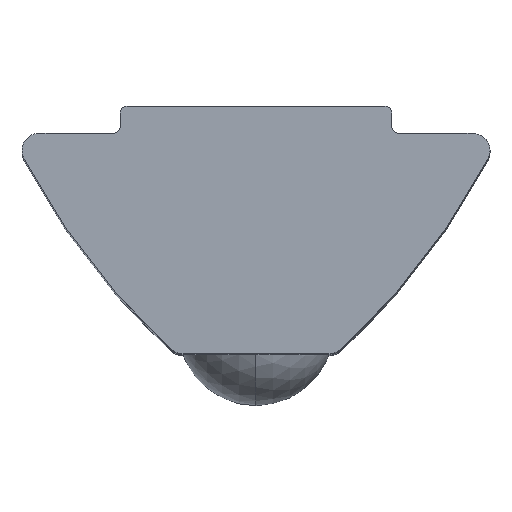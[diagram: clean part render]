
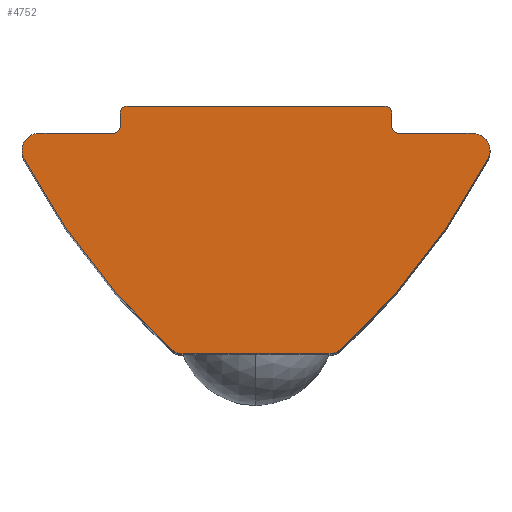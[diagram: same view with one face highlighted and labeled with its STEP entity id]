
A CAD part, top view. The second image highlights one B-rep face of the part: STEP entity #4752.
In plain terms, the highlighted planar face has unit normal (0, 0, 1).
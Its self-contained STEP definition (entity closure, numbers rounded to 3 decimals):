
#26 = AXIS2_PLACEMENT_3D ( 'NONE', #678, #217, #2881 ) ;
#60 = ORIENTED_EDGE ( 'NONE', *, *, #2688, .T. ) ;
#191 = VERTEX_POINT ( 'NONE', #746 ) ;
#217 = DIRECTION ( 'NONE',  ( 0., 0., 1. ) ) ;
#301 = DIRECTION ( 'NONE',  ( 1., 0., 0. ) ) ;
#379 = ORIENTED_EDGE ( 'NONE', *, *, #4953, .T. ) ;
#472 = FACE_OUTER_BOUND ( 'NONE', #1189, .T. ) ;
#520 = CARTESIAN_POINT ( 'NONE',  ( -4., -0.2, 0. ) ) ;
#535 = EDGE_CURVE ( 'NONE', #3814, #4878, #6131, .T. ) ;
#601 = CIRCLE ( 'NONE', #3243, 0.2 ) ;
#624 = VERTEX_POINT ( 'NONE', #765 ) ;
#678 = CARTESIAN_POINT ( 'NONE',  ( 3.8, -0.2, 0. ) ) ;
#746 = CARTESIAN_POINT ( 'NONE',  ( -4.2, -0.8, 0. ) ) ;
#753 = DIRECTION ( 'NONE',  ( 0., 1., 0. ) ) ;
#755 = ORIENTED_EDGE ( 'NONE', *, *, #4231, .T. ) ;
#765 = CARTESIAN_POINT ( 'NONE',  ( -6.4, -0.8, 0. ) ) ;
#962 = VERTEX_POINT ( 'NONE', #5815 ) ;
#982 = CARTESIAN_POINT ( 'NONE',  ( -2.485, -7.171, 0. ) ) ;
#994 = ORIENTED_EDGE ( 'NONE', *, *, #3889, .T. ) ;
#1047 = LINE ( 'NONE', #6234, #6774 ) ;
#1085 = EDGE_CURVE ( 'NONE', #4878, #4540, #3236, .T. ) ;
#1129 = PLANE ( 'NONE',  #1243 ) ;
#1150 = AXIS2_PLACEMENT_3D ( 'NONE', #2302, #1271, #2336 ) ;
#1175 = CARTESIAN_POINT ( 'NONE',  ( -6.844, -1.53, 0. ) ) ;
#1189 = EDGE_LOOP ( 'NONE', ( #4289, #60, #5644, #5469, #3060, #994, #6531, #5521, #5802, #755, #5991, #4119, #4323, #2280, #379, #3516, #1621 ) ) ;
#1228 = CARTESIAN_POINT ( 'NONE',  ( 3.8, 0., 0. ) ) ;
#1243 = AXIS2_PLACEMENT_3D ( 'NONE', #5828, #5861, #2175 ) ;
#1244 = CIRCLE ( 'NONE', #26, 0.2 ) ;
#1245 = DIRECTION ( 'NONE',  ( -1., 0., 0. ) ) ;
#1271 = DIRECTION ( 'NONE',  ( 0., 0., 1. ) ) ;
#1362 = AXIS2_PLACEMENT_3D ( 'NONE', #5969, #5040, #301 ) ;
#1381 = DIRECTION ( 'NONE',  ( 1., 0., 0. ) ) ;
#1485 = AXIS2_PLACEMENT_3D ( 'NONE', #6783, #3078, #1562 ) ;
#1520 = CARTESIAN_POINT ( 'NONE',  ( -2.15, -7.3, 0. ) ) ;
#1562 = DIRECTION ( 'NONE',  ( 1., 0., 0. ) ) ;
#1621 = ORIENTED_EDGE ( 'NONE', *, *, #3397, .T. ) ;
#1759 = CARTESIAN_POINT ( 'NONE',  ( 6.9, -1.3, 0. ) ) ;
#1767 = VERTEX_POINT ( 'NONE', #3641 ) ;
#1773 = VERTEX_POINT ( 'NONE', #4366 ) ;
#1912 = CARTESIAN_POINT ( 'NONE',  ( -3.8, -0.2, 0. ) ) ;
#1942 = AXIS2_PLACEMENT_3D ( 'NONE', #4235, #5362, #3276 ) ;
#2175 = DIRECTION ( 'NONE',  ( 1., 0., 0. ) ) ;
#2242 = VERTEX_POINT ( 'NONE', #1759 ) ;
#2271 = CARTESIAN_POINT ( 'NONE',  ( 4., -0.6, 0. ) ) ;
#2280 = ORIENTED_EDGE ( 'NONE', *, *, #2764, .T. ) ;
#2302 = CARTESIAN_POINT ( 'NONE',  ( 2.15, -6.8, 0. ) ) ;
#2336 = DIRECTION ( 'NONE',  ( 1., 0., 0. ) ) ;
#2480 = DIRECTION ( 'NONE',  ( 0., 0., 1. ) ) ;
#2544 = DIRECTION ( 'NONE',  ( 0., -1., 0. ) ) ;
#2688 = EDGE_CURVE ( 'NONE', #5972, #1767, #2844, .T. ) ;
#2695 = CIRCLE ( 'NONE', #3570, 20. ) ;
#2707 = DIRECTION ( 'NONE',  ( 0., 0., 1. ) ) ;
#2730 = DIRECTION ( 'NONE',  ( 1., 0., 0. ) ) ;
#2739 = DIRECTION ( 'NONE',  ( -1., 0., 0. ) ) ;
#2764 = EDGE_CURVE ( 'NONE', #2242, #1773, #3460, .T. ) ;
#2792 = VECTOR ( 'NONE', #753, 1000. ) ;
#2844 = LINE ( 'NONE', #6516, #4675 ) ;
#2881 = DIRECTION ( 'NONE',  ( 1., 0., 0. ) ) ;
#2917 = VECTOR ( 'NONE', #2544, 1000. ) ;
#2996 = DIRECTION ( 'NONE',  ( 0., 0., 1. ) ) ;
#3018 = CARTESIAN_POINT ( 'NONE',  ( 6.844, -1.53, 0. ) ) ;
#3037 = DIRECTION ( 'NONE',  ( 1., 0., 0. ) ) ;
#3038 = VERTEX_POINT ( 'NONE', #520 ) ;
#3060 = ORIENTED_EDGE ( 'NONE', *, *, #5229, .T. ) ;
#3078 = DIRECTION ( 'NONE',  ( 0., 0., 1. ) ) ;
#3104 = DIRECTION ( 'NONE',  ( 1., 0., 0. ) ) ;
#3119 = AXIS2_PLACEMENT_3D ( 'NONE', #5628, #5724, #3037 ) ;
#3236 = CIRCLE ( 'NONE', #4006, 0.5 ) ;
#3243 = AXIS2_PLACEMENT_3D ( 'NONE', #1912, #2480, #4118 ) ;
#3267 = EDGE_CURVE ( 'NONE', #5321, #962, #6009, .T. ) ;
#3276 = DIRECTION ( 'NONE',  ( 1., 0., 0. ) ) ;
#3277 = CARTESIAN_POINT ( 'NONE',  ( -4., -0.6, 0. ) ) ;
#3311 = DIRECTION ( 'NONE',  ( 0., 0., 1. ) ) ;
#3340 = LINE ( 'NONE', #3852, #4509 ) ;
#3397 = EDGE_CURVE ( 'NONE', #4532, #3466, #5039, .T. ) ;
#3460 = CIRCLE ( 'NONE', #1485, 0.5 ) ;
#3466 = VERTEX_POINT ( 'NONE', #3574 ) ;
#3477 = EDGE_CURVE ( 'NONE', #1767, #3038, #601, .T. ) ;
#3485 = EDGE_CURVE ( 'NONE', #962, #4384, #2695, .T. ) ;
#3516 = ORIENTED_EDGE ( 'NONE', *, *, #5354, .T. ) ;
#3560 = EDGE_CURVE ( 'NONE', #3038, #3844, #4084, .T. ) ;
#3570 = AXIS2_PLACEMENT_3D ( 'NONE', #4606, #2996, #1381 ) ;
#3574 = CARTESIAN_POINT ( 'NONE',  ( 4., -0.2, 0. ) ) ;
#3641 = CARTESIAN_POINT ( 'NONE',  ( -3.8, 0., 0. ) ) ;
#3647 = DIRECTION ( 'NONE',  ( 0., 0., 1. ) ) ;
#3814 = VERTEX_POINT ( 'NONE', #1175 ) ;
#3821 = CARTESIAN_POINT ( 'NONE',  ( -2.15, -6.8, 0. ) ) ;
#3844 = VERTEX_POINT ( 'NONE', #3277 ) ;
#3852 = CARTESIAN_POINT ( 'NONE',  ( -4.2, -0.8, 0. ) ) ;
#3889 = EDGE_CURVE ( 'NONE', #191, #624, #3340, .T. ) ;
#4006 = AXIS2_PLACEMENT_3D ( 'NONE', #3821, #3311, #2730 ) ;
#4025 = CARTESIAN_POINT ( 'NONE',  ( -2.15, -7.3, 0. ) ) ;
#4084 = LINE ( 'NONE', #6218, #2917 ) ;
#4118 = DIRECTION ( 'NONE',  ( 1., 0., 0. ) ) ;
#4119 = ORIENTED_EDGE ( 'NONE', *, *, #3485, .T. ) ;
#4184 = CARTESIAN_POINT ( 'NONE',  ( 4.2, -0.8, 0. ) ) ;
#4206 = CIRCLE ( 'NONE', #3119, 0.2 ) ;
#4231 = EDGE_CURVE ( 'NONE', #4540, #5321, #6778, .T. ) ;
#4235 = CARTESIAN_POINT ( 'NONE',  ( 10.908, 7.682, 0. ) ) ;
#4289 = ORIENTED_EDGE ( 'NONE', *, *, #5978, .T. ) ;
#4323 = ORIENTED_EDGE ( 'NONE', *, *, #6458, .T. ) ;
#4366 = CARTESIAN_POINT ( 'NONE',  ( 6.4, -0.8, 0. ) ) ;
#4384 = VERTEX_POINT ( 'NONE', #3018 ) ;
#4509 = VECTOR ( 'NONE', #1245, 1000. ) ;
#4532 = VERTEX_POINT ( 'NONE', #6565 ) ;
#4540 = VERTEX_POINT ( 'NONE', #4025 ) ;
#4606 = CARTESIAN_POINT ( 'NONE',  ( -10.908, 7.682, 0. ) ) ;
#4675 = VECTOR ( 'NONE', #2739, 1000. ) ;
#4752 = ADVANCED_FACE ( 'NONE', ( #472 ), #1129, .T. ) ;
#4878 = VERTEX_POINT ( 'NONE', #982 ) ;
#4953 = EDGE_CURVE ( 'NONE', #1773, #5492, #1047, .T. ) ;
#5039 = LINE ( 'NONE', #2271, #2792 ) ;
#5040 = DIRECTION ( 'NONE',  ( 0., 0., -1. ) ) ;
#5225 = AXIS2_PLACEMENT_3D ( 'NONE', #5336, #2707, #6383 ) ;
#5229 = EDGE_CURVE ( 'NONE', #3844, #191, #6115, .T. ) ;
#5321 = VERTEX_POINT ( 'NONE', #6219 ) ;
#5336 = CARTESIAN_POINT ( 'NONE',  ( 6.4, -1.3, 0. ) ) ;
#5354 = EDGE_CURVE ( 'NONE', #5492, #4532, #4206, .T. ) ;
#5362 = DIRECTION ( 'NONE',  ( 0., 0., 1. ) ) ;
#5379 = CARTESIAN_POINT ( 'NONE',  ( -6.4, -1.3, 0. ) ) ;
#5469 = ORIENTED_EDGE ( 'NONE', *, *, #3560, .T. ) ;
#5492 = VERTEX_POINT ( 'NONE', #4184 ) ;
#5521 = ORIENTED_EDGE ( 'NONE', *, *, #535, .T. ) ;
#5555 = CIRCLE ( 'NONE', #5225, 0.5 ) ;
#5628 = CARTESIAN_POINT ( 'NONE',  ( 4.2, -0.6, 0. ) ) ;
#5644 = ORIENTED_EDGE ( 'NONE', *, *, #3477, .T. ) ;
#5724 = DIRECTION ( 'NONE',  ( 0., 0., -1. ) ) ;
#5759 = DIRECTION ( 'NONE',  ( 1., 0., 0. ) ) ;
#5767 = CIRCLE ( 'NONE', #6331, 0.5 ) ;
#5802 = ORIENTED_EDGE ( 'NONE', *, *, #1085, .T. ) ;
#5809 = EDGE_CURVE ( 'NONE', #624, #3814, #5767, .T. ) ;
#5815 = CARTESIAN_POINT ( 'NONE',  ( 2.485, -7.171, 0. ) ) ;
#5828 = CARTESIAN_POINT ( 'NONE',  ( 3.8, -0.2, 0. ) ) ;
#5861 = DIRECTION ( 'NONE',  ( 0., 0., 1. ) ) ;
#5969 = CARTESIAN_POINT ( 'NONE',  ( -4.2, -0.6, 0. ) ) ;
#5972 = VERTEX_POINT ( 'NONE', #1228 ) ;
#5978 = EDGE_CURVE ( 'NONE', #3466, #5972, #1244, .T. ) ;
#5991 = ORIENTED_EDGE ( 'NONE', *, *, #3267, .T. ) ;
#6009 = CIRCLE ( 'NONE', #1150, 0.5 ) ;
#6115 = CIRCLE ( 'NONE', #1362, 0.2 ) ;
#6131 = CIRCLE ( 'NONE', #1942, 20. ) ;
#6218 = CARTESIAN_POINT ( 'NONE',  ( -4., -0.2, 0. ) ) ;
#6219 = CARTESIAN_POINT ( 'NONE',  ( 2.15, -7.3, 0. ) ) ;
#6234 = CARTESIAN_POINT ( 'NONE',  ( 6.4, -0.8, 0. ) ) ;
#6331 = AXIS2_PLACEMENT_3D ( 'NONE', #5379, #3647, #5759 ) ;
#6383 = DIRECTION ( 'NONE',  ( 1., 0., 0. ) ) ;
#6458 = EDGE_CURVE ( 'NONE', #4384, #2242, #5555, .T. ) ;
#6516 = CARTESIAN_POINT ( 'NONE',  ( 3.8, 0., 0. ) ) ;
#6531 = ORIENTED_EDGE ( 'NONE', *, *, #5809, .T. ) ;
#6565 = CARTESIAN_POINT ( 'NONE',  ( 4., -0.6, 0. ) ) ;
#6749 = DIRECTION ( 'NONE',  ( -1., 0., 0. ) ) ;
#6751 = VECTOR ( 'NONE', #3104, 1000. ) ;
#6774 = VECTOR ( 'NONE', #6749, 1000. ) ;
#6778 = LINE ( 'NONE', #1520, #6751 ) ;
#6783 = CARTESIAN_POINT ( 'NONE',  ( 6.4, -1.3, 0. ) ) ;
